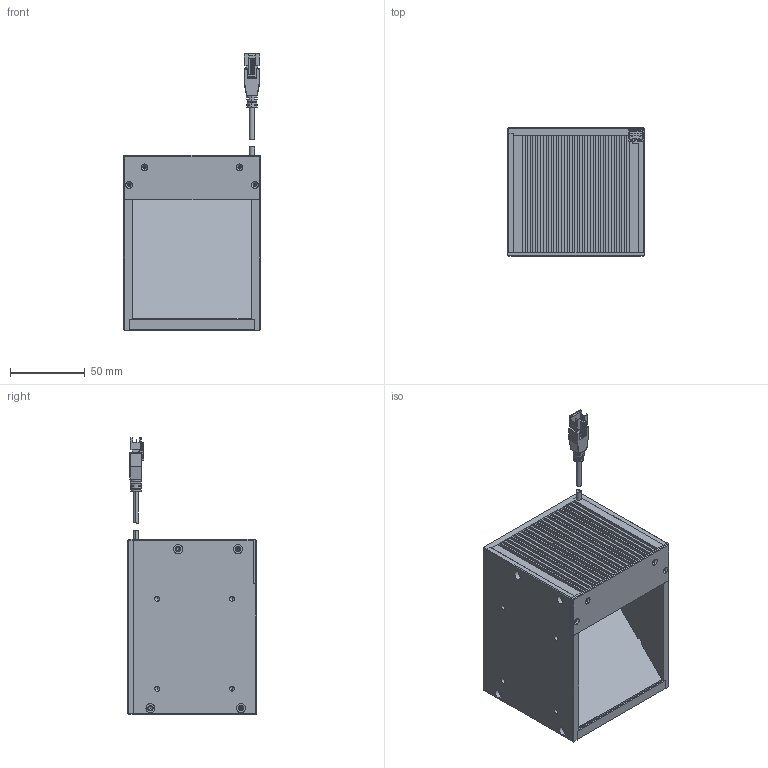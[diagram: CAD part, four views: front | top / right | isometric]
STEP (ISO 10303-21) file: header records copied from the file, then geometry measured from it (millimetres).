
FILE_DESCRIPTION (( 'STEP AP203' ), '1' );
FILE_NAME ('CST-COS80-¼òÒ×3DÍ¼.STEP', '2022-11-02T02:05:45', ( '' ), ( '' ), 'SwSTEP 2.0', 'SolidWorks 2018', '' );
FILE_SCHEMA (( 'CONFIG_CONTROL_DESIGN' ));
Length unit declared in the file: millimetre
Products named in the file (1): CST-COS80-潠眢3D芞
Bounding box: 91 x 85.5 x 184.5 mm (x, y, z)
Volume: 254090.5 mm3; surface area: 159196.6 mm2
Topology: 11 solids, 11 shells, 691 faces, 1784 edges, 1108 vertices
Faces by surface type: plane 387, cylinder 212, cone 66, bspline 20, torus 6
Entity records: 21049 total; most frequent: CARTESIAN_POINT 4223, DIRECTION 3472, ORIENTED_EDGE 3448, EDGE_CURVE 1724, LINE 1220, VECTOR 1220, AXIS2_PLACEMENT_3D 1126, VERTEX_POINT 1108
